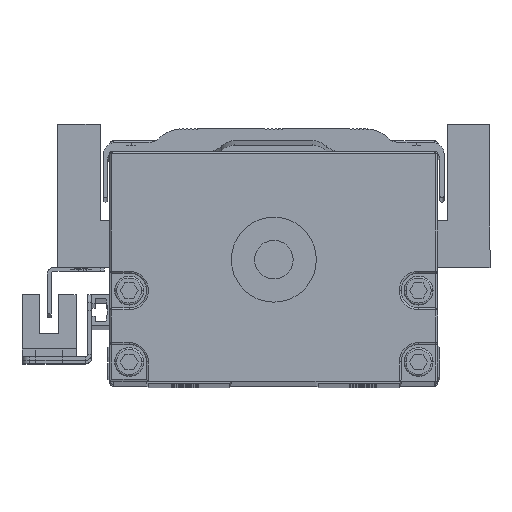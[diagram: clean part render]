
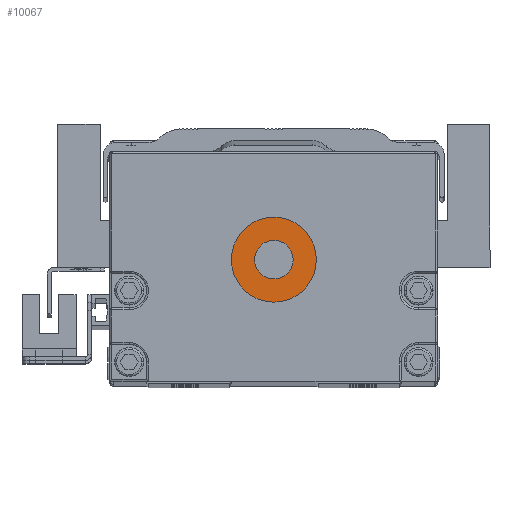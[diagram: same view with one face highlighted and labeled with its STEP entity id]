
A CAD part, top view. The second image highlights one B-rep face of the part: STEP entity #10067.
In plain terms, the highlighted planar face has unit normal (0, 0, 1).
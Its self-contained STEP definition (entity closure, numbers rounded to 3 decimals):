
#1884 = DIRECTION ( 'NONE',  ( 1., 0., 0. ) ) ;
#2817 = EDGE_LOOP ( 'NONE', ( #27596, #40999 ) ) ;
#4596 = PLANE ( 'NONE',  #27769 ) ;
#4861 = DIRECTION ( 'NONE',  ( 0., 0., 1. ) ) ;
#5434 = EDGE_LOOP ( 'NONE', ( #18322, #32496 ) ) ;
#7160 = DIRECTION ( 'NONE',  ( 1., 0., 0. ) ) ;
#8899 = VERTEX_POINT ( 'NONE', #15758 ) ;
#9308 = AXIS2_PLACEMENT_3D ( 'NONE', #35921, #30771, #58212 ) ;
#10067 = ADVANCED_FACE ( 'NONE', ( #34636, #57941 ), #4596, .T. ) ;
#11590 = VERTEX_POINT ( 'NONE', #44877 ) ;
#15758 = CARTESIAN_POINT ( 'NONE',  ( 5., 32., 649. ) ) ;
#16673 = EDGE_CURVE ( 'NONE', #39918, #48206, #50116, .T. ) ;
#18322 = ORIENTED_EDGE ( 'NONE', *, *, #44198, .F. ) ;
#21161 = CARTESIAN_POINT ( 'NONE',  ( 0., 32., 649. ) ) ;
#24295 = CARTESIAN_POINT ( 'NONE',  ( 11., 32., 649. ) ) ;
#26534 = CARTESIAN_POINT ( 'NONE',  ( -11., 32., 649. ) ) ;
#27203 = DIRECTION ( 'NONE',  ( 1., 0., 0. ) ) ;
#27596 = ORIENTED_EDGE ( 'NONE', *, *, #16673, .T. ) ;
#27769 = AXIS2_PLACEMENT_3D ( 'NONE', #40796, #45334, #1884 ) ;
#29655 = AXIS2_PLACEMENT_3D ( 'NONE', #45613, #4861, #27203 ) ;
#30525 = CIRCLE ( 'NONE', #42616, 11. ) ;
#30610 = CARTESIAN_POINT ( 'NONE',  ( 0., 32., 649. ) ) ;
#30771 = DIRECTION ( 'NONE',  ( 0., 0., 1. ) ) ;
#30791 = DIRECTION ( 'NONE',  ( 1., 0., 0. ) ) ;
#31477 = AXIS2_PLACEMENT_3D ( 'NONE', #30610, #40107, #30791 ) ;
#32496 = ORIENTED_EDGE ( 'NONE', *, *, #50662, .F. ) ;
#33724 = EDGE_CURVE ( 'NONE', #48206, #39918, #30525, .T. ) ;
#34636 = FACE_OUTER_BOUND ( 'NONE', #2817, .T. ) ;
#35921 = CARTESIAN_POINT ( 'NONE',  ( 0., 32., 649. ) ) ;
#37676 = CIRCLE ( 'NONE', #9308, 5. ) ;
#39918 = VERTEX_POINT ( 'NONE', #24295 ) ;
#40107 = DIRECTION ( 'NONE',  ( 0., 0., 1. ) ) ;
#40796 = CARTESIAN_POINT ( 'NONE',  ( 0., 32., 649. ) ) ;
#40999 = ORIENTED_EDGE ( 'NONE', *, *, #33724, .T. ) ;
#42443 = CIRCLE ( 'NONE', #29655, 5. ) ;
#42616 = AXIS2_PLACEMENT_3D ( 'NONE', #21161, #56738, #7160 ) ;
#44198 = EDGE_CURVE ( 'NONE', #11590, #8899, #37676, .T. ) ;
#44877 = CARTESIAN_POINT ( 'NONE',  ( -5., 32., 649. ) ) ;
#45334 = DIRECTION ( 'NONE',  ( 0., 0., 1. ) ) ;
#45613 = CARTESIAN_POINT ( 'NONE',  ( 0., 32., 649. ) ) ;
#48206 = VERTEX_POINT ( 'NONE', #26534 ) ;
#50116 = CIRCLE ( 'NONE', #31477, 11. ) ;
#50662 = EDGE_CURVE ( 'NONE', #8899, #11590, #42443, .T. ) ;
#56738 = DIRECTION ( 'NONE',  ( 0., 0., 1. ) ) ;
#57941 = FACE_BOUND ( 'NONE', #5434, .T. ) ;
#58212 = DIRECTION ( 'NONE',  ( 1., 0., 0. ) ) ;
